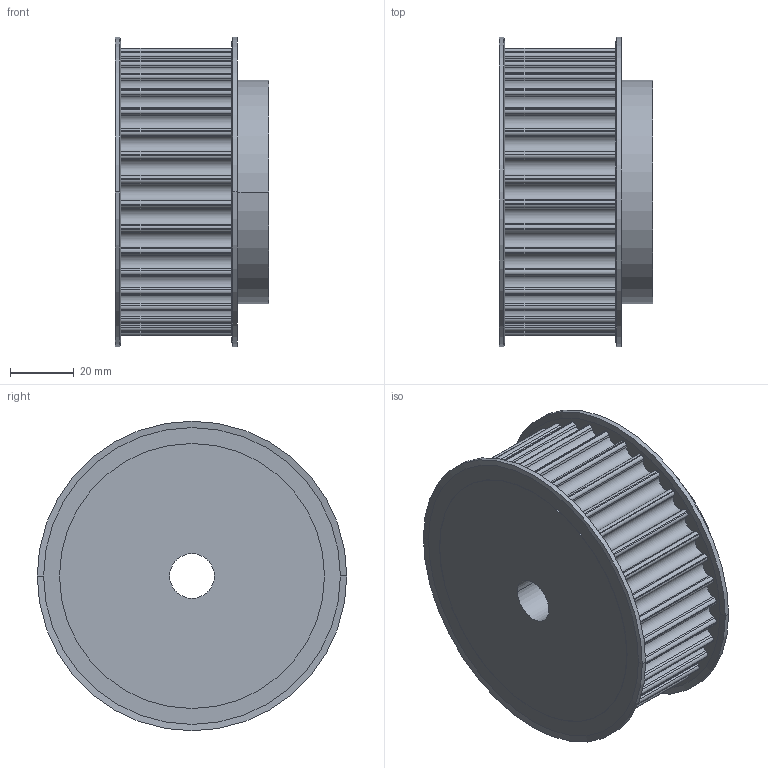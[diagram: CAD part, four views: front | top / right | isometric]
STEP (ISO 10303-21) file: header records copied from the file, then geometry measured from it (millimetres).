
FILE_DESCRIPTION( ( '' ), '1' );
FILE_NAME( 'C:/Users/Stangenbergd/Documents/CAD_Step/1/17421800.stp', '2021-10-19T10:10:41', ( '' ), ( '' ), ' ', ' ', ' ' );
FILE_SCHEMA( ( 'CONFIG_CONTROL_DESIGN' ) );
Length unit declared in the file: millimetre
Products named in the file (1): 1
Bounding box: 48.13 x 97 x 97 mm (x, y, z)
Volume: 256490.2 mm3; surface area: 37378.9 mm2
Topology: 1 solids, 1 shells, 243 faces, 700 edges, 464 vertices
Faces by surface type: cylinder 156, plane 79, cone 8
Entity records: 8158 total; most frequent: DIRECTION 1508, CARTESIAN_POINT 1408, ORIENTED_EDGE 1400, EDGE_CURVE 700, AXIS2_PLACEMENT_3D 564, VERTEX_POINT 464, LINE 380, VECTOR 380
